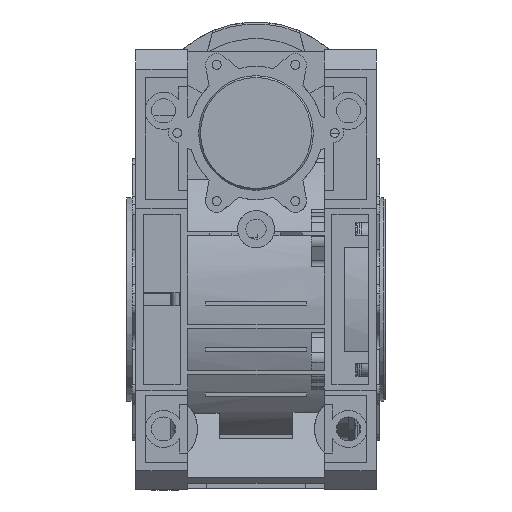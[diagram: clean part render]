
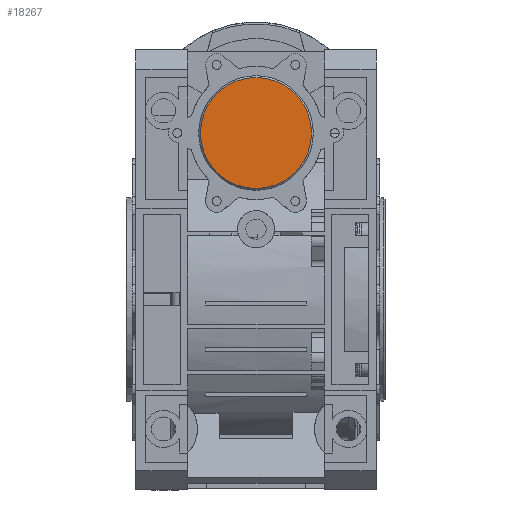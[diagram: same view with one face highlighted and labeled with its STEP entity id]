
A CAD part, front view. The second image highlights one B-rep face of the part: STEP entity #18267.
In plain terms, the highlighted planar face has unit normal (0, -1, 0).
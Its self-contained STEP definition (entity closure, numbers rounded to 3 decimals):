
#18236=CARTESIAN_POINT('',(30.,-103.0,90.));
#18237=VERTEX_POINT('',#18236);
#18238=CARTESIAN_POINT('',(0.,-103.0,90.0));
#18239=DIRECTION('',(0.0,1.0,0.0));
#18240=DIRECTION('',(-1.0,0.0,0.0));
#18241=AXIS2_PLACEMENT_3D('',#18238,#18239,#18240);
#18242=CIRCLE('',#18241,30.0);
#18243=EDGE_CURVE('',#18237,#18237,#18242,.T.);
#18259=CARTESIAN_POINT('',(15.5,-103.0,90.));
#18260=DIRECTION('',(0.0,-1.0,0.0));
#18261=DIRECTION('',(0.0,0.0,-1.0));
#18262=AXIS2_PLACEMENT_3D('',#18259,#18260,#18261);
#18263=PLANE('',#18262);
#18264=ORIENTED_EDGE('',*,*,#18243,.F.);
#18265=EDGE_LOOP('',(#18264));
#18266=FACE_OUTER_BOUND('',#18265,.T.);
#18267=ADVANCED_FACE('',(#18266),#18263,.T.);
